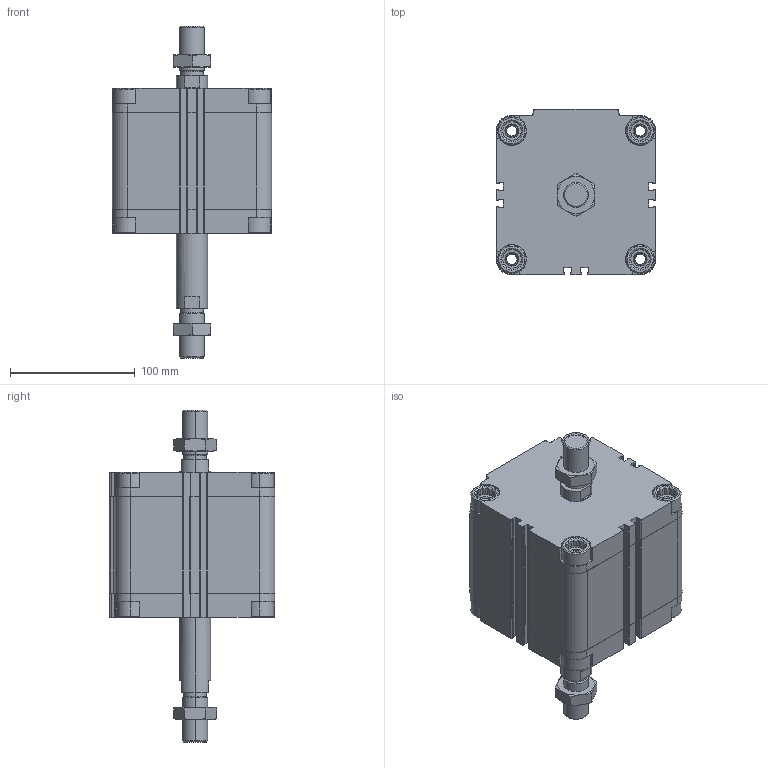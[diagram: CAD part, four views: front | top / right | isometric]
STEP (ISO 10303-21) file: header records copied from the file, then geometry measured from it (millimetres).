
FILE_DESCRIPTION (( 'STEP AP203' ), '1' );
FILE_NAME ('CDVU100-50M-P.STEP', '2020-07-21T16:39:41', ( '' ), ( '' ), 'SwSTEP 2.0', 'SolidWorks 2019', '' );
FILE_SCHEMA (( 'CONFIG_CONTROL_DESIGN' ));
Length unit declared in the file: millimetre
Products named in the file (1): CDVU100-50M-P
Bounding box: 128 x 133 x 266.5 mm (x, y, z)
Volume: 1533069.2 mm3; surface area: 206768.3 mm2
Topology: 4 solids, 4 shells, 706 faces, 1888 edges, 1234 vertices
Faces by surface type: plane 410, cylinder 216, cone 80
Entity records: 23055 total; most frequent: CARTESIAN_POINT 5265, ORIENTED_EDGE 3768, DIRECTION 3610, EDGE_CURVE 1884, AXIS2_PLACEMENT_3D 1235, VERTEX_POINT 1234, LINE 1140, VECTOR 1140
